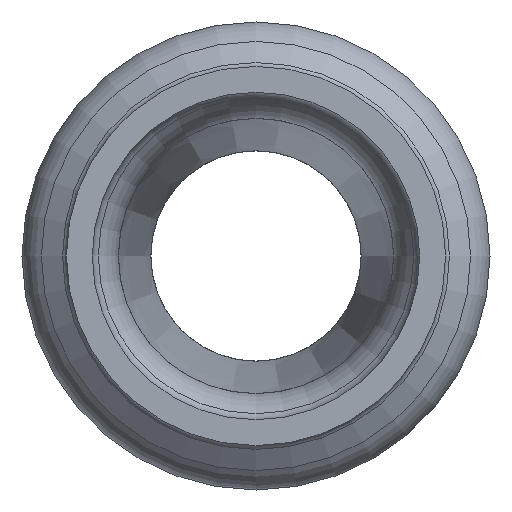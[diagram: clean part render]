
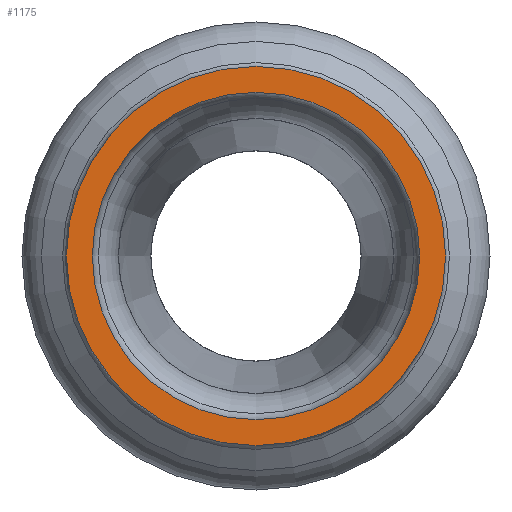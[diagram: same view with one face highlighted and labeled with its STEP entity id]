
A CAD part, left-side view. The second image highlights one B-rep face of the part: STEP entity #1175.
In plain terms, the highlighted planar face has unit normal (-1, 0, 0).
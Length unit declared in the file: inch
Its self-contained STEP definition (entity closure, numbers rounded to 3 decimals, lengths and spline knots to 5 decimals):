
#46=FACE_BOUND('',#211,.T.);
#48=PLANE('',#1401);
#161=FACE_OUTER_BOUND('',#210,.T.);
#210=EDGE_LOOP('',(#1044,#1045));
#211=EDGE_LOOP('',(#1046,#1047));
#369=CIRCLE('',#1399,0.525);
#370=CIRCLE('',#1400,0.525);
#371=CIRCLE('',#1402,0.608);
#372=CIRCLE('',#1403,0.608);
#505=VERTEX_POINT('',#2239);
#506=VERTEX_POINT('',#2241);
#507=VERTEX_POINT('',#2245);
#508=VERTEX_POINT('',#2246);
#686=EDGE_CURVE('',#506,#505,#369,.T.);
#687=EDGE_CURVE('',#505,#506,#370,.T.);
#688=EDGE_CURVE('',#507,#508,#371,.T.);
#689=EDGE_CURVE('',#508,#507,#372,.T.);
#1044=ORIENTED_EDGE('',*,*,#688,.F.);
#1045=ORIENTED_EDGE('',*,*,#689,.F.);
#1046=ORIENTED_EDGE('',*,*,#686,.T.);
#1047=ORIENTED_EDGE('',*,*,#687,.T.);
#1175=ADVANCED_FACE('',(#161,#46),#48,.T.);
#1399=AXIS2_PLACEMENT_3D('',#2242,#1845,#1846);
#1400=AXIS2_PLACEMENT_3D('',#2243,#1847,#1848);
#1401=AXIS2_PLACEMENT_3D('',#2244,#1849,#1850);
#1402=AXIS2_PLACEMENT_3D('',#2247,#1851,#1852);
#1403=AXIS2_PLACEMENT_3D('',#2248,#1853,#1854);
#1845=DIRECTION('center_axis',(1.,0.,0.));
#1846=DIRECTION('ref_axis',(0.,1.,0.));
#1847=DIRECTION('center_axis',(1.,0.,0.));
#1848=DIRECTION('ref_axis',(0.,1.,0.));
#1849=DIRECTION('center_axis',(-1.,0.,0.));
#1850=DIRECTION('ref_axis',(0.,0.,1.));
#1851=DIRECTION('center_axis',(1.,0.,0.));
#1852=DIRECTION('ref_axis',(0.,1.,0.));
#1853=DIRECTION('center_axis',(1.,0.,0.));
#1854=DIRECTION('ref_axis',(0.,1.,0.));
#2239=CARTESIAN_POINT('',(-2.125,-0.525,0.));
#2241=CARTESIAN_POINT('',(-2.125,0.525,0.));
#2242=CARTESIAN_POINT('Origin',(-2.125,0.,0.));
#2243=CARTESIAN_POINT('Origin',(-2.125,0.,0.));
#2244=CARTESIAN_POINT('Origin',(-2.125,0.5665,0.));
#2245=CARTESIAN_POINT('',(-2.125,0.608,0.));
#2246=CARTESIAN_POINT('',(-2.125,-0.608,0.));
#2247=CARTESIAN_POINT('Origin',(-2.125,0.,0.));
#2248=CARTESIAN_POINT('Origin',(-2.125,0.,0.));
